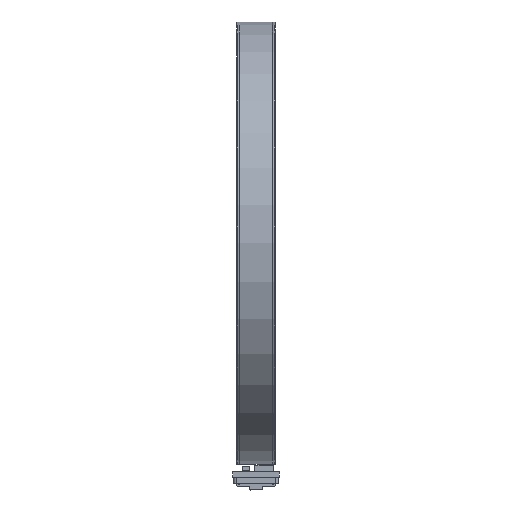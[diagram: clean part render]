
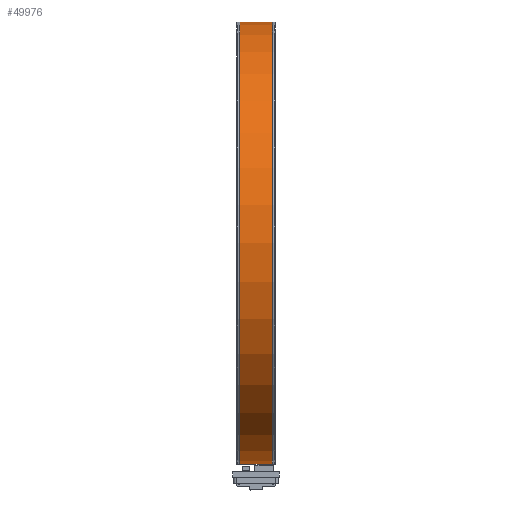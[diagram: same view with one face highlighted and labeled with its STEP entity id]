
A CAD part, left-side view. The second image highlights one B-rep face of the part: STEP entity #49976.
In plain terms, the highlighted cylindrical face has radius 81.2 mm (diameter 162.4 mm), a partial arc.
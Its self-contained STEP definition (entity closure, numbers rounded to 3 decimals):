
#6536 = VERTEX_POINT ( 'NONE', #51901 ) ;
#8028 = CARTESIAN_POINT ( 'NONE',  ( 0., 1., 81.2 ) ) ;
#9645 = AXIS2_PLACEMENT_3D ( 'NONE', #50395, #76086, #69244 ) ;
#10474 = ORIENTED_EDGE ( 'NONE', *, *, #25660, .T. ) ;
#11806 = CARTESIAN_POINT ( 'NONE',  ( 0., 13., 0. ) ) ;
#12622 = VERTEX_POINT ( 'NONE', #8028 ) ;
#16730 = CARTESIAN_POINT ( 'NONE',  ( 0., -15., 81.2 ) ) ;
#20097 = DIRECTION ( 'NONE',  ( 0., 0., 1. ) ) ;
#22703 = DIRECTION ( 'NONE',  ( 0., 1., 0. ) ) ;
#24372 = CYLINDRICAL_SURFACE ( 'NONE', #55652, 81.2 ) ;
#25660 = EDGE_CURVE ( 'NONE', #47835, #6536, #27625, .T. ) ;
#27625 = CIRCLE ( 'NONE', #75558, 81.2 ) ;
#27856 = LINE ( 'NONE', #16730, #70537 ) ;
#30261 = LINE ( 'NONE', #42250, #64662 ) ;
#30826 = FACE_OUTER_BOUND ( 'NONE', #78641, .T. ) ;
#32102 = DIRECTION ( 'NONE',  ( 0., 1., 0. ) ) ;
#37542 = DIRECTION ( 'NONE',  ( 0., 1., 0. ) ) ;
#38180 = CARTESIAN_POINT ( 'NONE',  ( 0., 13., 81.2 ) ) ;
#42250 = CARTESIAN_POINT ( 'NONE',  ( 0., -15., -81.2 ) ) ;
#43096 = DIRECTION ( 'NONE',  ( 0., 0., -1. ) ) ;
#45514 = ORIENTED_EDGE ( 'NONE', *, *, #46137, .T. ) ;
#46137 = EDGE_CURVE ( 'NONE', #12622, #47835, #27856, .T. ) ;
#47661 = ORIENTED_EDGE ( 'NONE', *, *, #61442, .F. ) ;
#47835 = VERTEX_POINT ( 'NONE', #38180 ) ;
#49976 = ADVANCED_FACE ( 'NONE', ( #30826 ), #24372, .T. ) ;
#50395 = CARTESIAN_POINT ( 'NONE',  ( 0., 1., 0. ) ) ;
#51901 = CARTESIAN_POINT ( 'NONE',  ( 0., 13., -81.2 ) ) ;
#52643 = CARTESIAN_POINT ( 'NONE',  ( 0., -15., 0. ) ) ;
#54013 = EDGE_CURVE ( 'NONE', #71075, #12622, #72655, .T. ) ;
#55652 = AXIS2_PLACEMENT_3D ( 'NONE', #52643, #32102, #20097 ) ;
#61442 = EDGE_CURVE ( 'NONE', #71075, #6536, #30261, .T. ) ;
#64662 = VECTOR ( 'NONE', #37542, 1000. ) ;
#68149 = ORIENTED_EDGE ( 'NONE', *, *, #54013, .T. ) ;
#69244 = DIRECTION ( 'NONE',  ( 0., 0., 1. ) ) ;
#70537 = VECTOR ( 'NONE', #22703, 1000. ) ;
#71075 = VERTEX_POINT ( 'NONE', #75818 ) ;
#72655 = CIRCLE ( 'NONE', #9645, 81.2 ) ;
#75558 = AXIS2_PLACEMENT_3D ( 'NONE', #11806, #82904, #43096 ) ;
#75818 = CARTESIAN_POINT ( 'NONE',  ( 0., 1., -81.2 ) ) ;
#76086 = DIRECTION ( 'NONE',  ( 0., 1., 0. ) ) ;
#78641 = EDGE_LOOP ( 'NONE', ( #47661, #68149, #45514, #10474 ) ) ;
#82904 = DIRECTION ( 'NONE',  ( 0., -1., 0. ) ) ;
